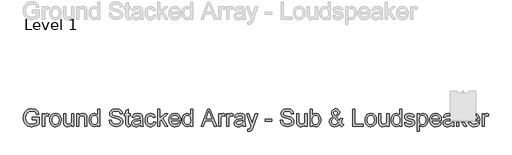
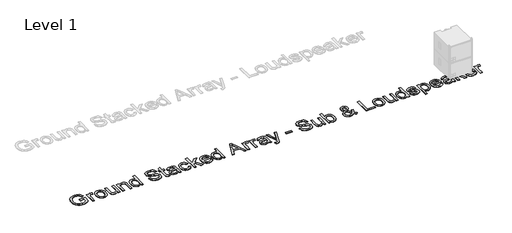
# One storey, part 14 of 31: 1 proxy.
"""IFC4 building model written with IfcOpenShell, lengths in millimetres."""

from ifc_helpers import new_model, si_unit, origin, origin_with_axes, place, context, project, spatial, polyline, outline, extrude, element, save

model = new_model("IFC4")

# Units and contexts
model_context = context("Model", 3, world=origin())
ifc_project = project(units=[si_unit("LENGTHUNIT", "METRE", prefix="MILLI")], contexts=[model_context])

# Site, building, storey
site = spatial("IfcSite", under=ifc_project)
building = spatial("IfcBuilding", under=site)
storey = spatial("IfcBuildingStorey", under=building, Name="Level 1", Elevation=0.0)

# Proxy
placement = place(None, origin())
element("IfcBuildingElementProxy", 1, Name="400mm Arial", ObjectType="400mm Arial", at=placement, inside=storey, context=model_context, shape_type="SweptSolid", body=[
    extrude(outline(polyline([(1908.6992468, -9440.554912), (1908.6992468, -9390.3267569), (2071.9407508, -9390.3267569), (2071.9407508, -9540.5207128), (2032.270809, -9568.1118625), (1991.3500684, -9587.9039138), (1949.2766309, -9599.8232904), (1906.1485983, -9603.796416), (1877.2974529, -9602.2175891), (1849.8013394, -9597.4811084), (1823.660258, -9589.5869739), (1798.8742085, -9578.5351857), (1776.2433345, -9564.4912905), (1756.5677791, -9547.6208353), (1739.8475424, -9527.9238202), (1726.0826244, -9505.400245), (1715.3312731, -9480.7705454), (1707.6517365, -9454.755157), (1703.0440145, -9427.3540797), (1701.5081071, -9398.5673136), (1707.627211, -9341.9748), (1715.2760908, -9315.1592683), (1725.9845226, -9289.3308865), (1739.5624339, -9265.6239576), (1755.8197524, -9245.1727844), (1774.7564781, -9227.9773668), (1796.372611, -9214.0377048), (1820.1991015, -9203.2648937), (1845.7669002, -9195.5700287), (1873.076007, -9190.9531096), (1902.1264218, -9189.4141366), (1943.5008836, -9192.982592), (1980.706016, -9203.687958), (2012.0372993, -9220.7576826), (2035.7902134, -9243.4192135), (2053.3627101, -9272.763934), (2066.1527408, -9309.8832273), (2019.8486603, -9322.9307754), (2009.5111762, -9296.4555345), (1996.9418747, -9276.4795422), (1980.3136086, -9261.4209058), (1957.7992305, -9249.6977329), (1930.9561075, -9242.156152), (1901.3416069, -9239.6422917), (1866.6748602, -9242.3523557), (1837.0358342, -9250.4825478), (1812.5348933, -9263.0150611), (1793.2824022, -9278.9320888), (1778.5058087, -9297.4120277), (1767.4325607, -9317.6332747), (1755.6603368, -9355.5496456), (1751.7362622, -9396.5071744), (1756.4574145, -9444.5403003), (1770.6208713, -9484.0630893), (1793.797437, -9514.7934986), (1825.5579159, -9536.4494854), (1862.7262602, -9549.288567), (1902.1264218, -9553.5682609), (1936.9157959, -9550.3431621), (1970.8467785, -9540.6678656), (2000.3141264, -9527.3382747), (2021.7125957, -9513.1502924), (2021.7125957, -9440.554912), (1908.6992468, -9440.554912)])), origin_with_axes(), (0.0, 0.0, 1.0), 5.0),
    extrude(outline(polyline([(2147.2829834, -9597.5178966), (2147.2829834, -9302.4274855), (2191.2326191, -9302.4274855), (2191.2326191, -9346.0828156), (2207.4684778, -9320.7725344), (2222.4290123, -9305.8610508), (2237.4385977, -9298.5769873), (2253.8216092, -9296.1489662), (2278.8375849, -9300.0239898), (2304.245968, -9311.6490609), (2287.4705491, -9356.6778171), (2269.8122133, -9348.9522952), (2252.1538775, -9346.3771212), (2237.1565549, -9348.8541933), (2223.7533875, -9356.2854096), (2212.9253941, -9368.1066844), (2205.6535933, -9383.7539319), (2199.5467522, -9411.8110654), (2197.5111385, -9442.4188474), (2197.5111385, -9597.5178966), (2147.2829834, -9597.5178966)])), origin_with_axes(), (0.0, 0.0, 1.0), 5.0),
    extrude(outline(polyline([(2323.0815262, -9449.9726911), (2325.7977216, -9411.7558831), (2333.9463078, -9378.8243132), (2347.5272848, -9351.1779813), (2366.5406526, -9328.8168873), (2385.682779, -9314.5246718), (2406.8114683, -9304.3159465), (2429.9267203, -9298.1907112), (2455.0285351, -9296.1489662), (2482.7392464, -9298.6352353), (2507.795076, -9306.0940428), (2530.1960238, -9318.5253885), (2549.9420899, -9335.9292726), (2566.058387, -9357.7170837), (2577.5700277, -9383.3002108), (2584.4770122, -9412.6786538), (2586.7793403, -9445.8524127), (2582.7081129, -9496.5956026), (2570.4944307, -9535.2232121), (2550.4939129, -9564.1509996), (2523.0621788, -9585.7947237), (2490.4800967, -9599.2959929), (2455.0285351, -9603.796416), (2426.9131536, -9601.3193439), (2401.6243322, -9593.8881276), (2379.1620707, -9581.5027671), (2359.5263692, -9564.1632624), (2343.5817504, -9542.1639191), (2332.1927369, -9515.7990427), (2325.3593289, -9485.0686334), (2323.0815262, -9449.9726911)]), holes=[polyline([(2373.3096813, -9449.8745892), (2374.7628152, -9474.2375743), (2379.1222168, -9495.3325411), (2386.3878862, -9513.1594894), (2396.5598234, -9527.7184194), (2408.9329211, -9539.0277251), (2422.8020724, -9547.1058005), (2438.167277, -9551.9526458), (2455.0285351, -9553.5682609), (2471.8039541, -9551.9434488), (2487.1078451, -9547.0690123), (2500.9402081, -9538.9449516), (2513.3010432, -9527.5712666), (2523.4729803, -9512.8682495), (2530.7386497, -9494.7561926), (2535.0980514, -9473.2350959), (2536.5511853, -9448.3049594), (2535.0888543, -9424.7145264), (2530.7018615, -9404.1713827), (2523.3902069, -9386.6755281), (2513.1538904, -9372.2269628), (2500.7470701, -9360.9176571), (2486.9239041, -9352.8395816), (2471.6843925, -9347.9927363), (2455.0285351, -9346.3771212), (2438.167277, -9347.986605), (2422.8020724, -9352.8150562), (2408.9329211, -9360.8624748), (2396.5598234, -9372.1288609), (2386.3878862, -9386.6448713), (2379.1222168, -9404.4411628), (2374.7628152, -9425.5177354), (2373.3096813, -9449.8745892)])]), origin_with_axes(), (0.0, 0.0, 1.0), 5.0),
    extrude(outline(polyline([(2831.6415963, -9597.5178966), (2831.6415963, -9546.7992322), (2813.4682258, -9571.7355001), (2792.3027483, -9589.54712), (2768.145164, -9600.234092), (2740.9954727, -9603.796416), (2716.53132, -9601.2948184), (2693.7594245, -9593.7900257), (2674.6540863, -9582.5083112), (2661.1896052, -9568.6759482), (2652.1274454, -9551.8760037), (2646.2290708, -9531.6915449), (2643.2860148, -9484.995057), (2643.2860148, -9302.4274855), (2693.5141699, -9302.4274855), (2693.5141699, -9461.3525075), (2696.5553277, -9512.5616812), (2703.8761794, -9529.6436685), (2716.4209554, -9542.6299029), (2733.3557899, -9550.8336714), (2753.8468171, -9553.5682609), (2775.5150666, -9550.7723578), (2795.7853645, -9542.3846483), (2812.4994698, -9529.1776846), (2823.4991415, -9511.9240191), (2829.6059826, -9488.2937322), (2831.6415963, -9455.9569049), (2831.6415963, -9302.4274855), (2881.8697514, -9302.4274855), (2881.8697514, -9597.5178966), (2831.6415963, -9597.5178966)])), origin_with_axes(), (0.0, 0.0, 1.0), 5.0),
    extrude(outline(polyline([(2950.9334646, -9597.5178966), (2950.9334646, -9302.4274855), (3001.1616197, -9302.4274855), (3001.1616197, -9343.630269), (3018.611489, -9322.857199), (3039.5685, -9308.0192919), (3064.0326527, -9299.1165476), (3092.003947, -9296.1489662), (3116.7624053, -9298.5401991), (3139.436199, -9305.713898), (3158.3453335, -9316.7748834), (3171.8098145, -9330.8279756), (3180.9455507, -9347.8363865), (3186.8684509, -9367.7633279), (3189.5172012, -9416.3237513), (3189.5172012, -9597.5178966), (3139.2890462, -9597.5178966), (3139.2890462, -9423.09278), (3137.8420436, -9397.1203111), (3133.5010361, -9378.6526349), (3125.4934713, -9365.4211459), (3113.0467972, -9355.1572382), (3097.0929813, -9348.5721505), (3078.5639915, -9346.3771212), (3049.1456946, -9351.30674), (3024.0684053, -9366.0955962), (3014.0466866, -9378.168257), (3006.8883161, -9394.6677645), (3002.5932938, -9415.5941186), (3001.1616197, -9440.9473195), (3001.1616197, -9597.5178966), (2950.9334646, -9597.5178966)])), origin_with_axes(), (0.0, 0.0, 1.0), 5.0),
    extrude(outline(polyline([(3440.6579766, -9597.5178966), (3440.6579766, -9550.1346956), (3425.6299971, -9573.6116983), (3407.4259697, -9590.3809859), (3386.0458944, -9600.4425585), (3361.4897712, -9603.796416), (3329.0180538, -9598.9403737), (3299.2931886, -9584.3722466), (3274.1300601, -9561.1098418), (3255.3435529, -9530.170966), (3243.6449055, -9492.806418), (3239.7453563, -9450.2669967), (3243.3383371, -9408.2548728), (3254.1172796, -9370.3139764), (3272.069921, -9338.6025484), (3297.1839985, -9315.2788299), (3327.5587886, -9300.9314321), (3361.2935675, -9296.1489662), (3385.8680848, -9299.5702687), (3407.597648, -9309.8341764), (3426.0162732, -9325.567263), (3440.6579766, -9345.3961026), (3440.6579766, -9195.692656), (3490.8861317, -9195.692656), (3490.8861317, -9597.5178966), (3440.6579766, -9597.5178966)]), holes=[polyline([(3289.9735114, -9450.0707929), (3291.3898571, -9474.4276467), (3295.6388941, -9495.5042193), (3302.7206225, -9513.3005109), (3312.6350423, -9527.8165213), (3337.3321869, -9547.130326), (3351.2074695, -9551.9587772), (3366.1005589, -9553.5682609), (3381.0641591, -9552.0323536), (3394.8566682, -9547.4246316), (3418.9284134, -9528.9937436), (3428.4350973, -9515.0847385), (3435.2255858, -9497.9322405), (3440.6579766, -9453.8967657), (3435.1274839, -9405.7532753), (3428.2143681, -9387.2181541), (3418.536006, -9372.3741156), (3406.8342928, -9361.0004305), (3393.8511241, -9352.8763698), (3379.5864997, -9348.0019334), (3364.0404197, -9346.3771212), (3348.8530247, -9347.937554), (3334.9777421, -9352.6188524), (3322.414572, -9360.4210164), (3311.1635143, -9371.344046), (3301.892888, -9385.6270644), (3295.2710121, -9403.5091951), (3289.9735114, -9450.0707929)])]), origin_with_axes(), (0.0, 0.0, 1.0), 5.0),
    extrude(outline(polyline([(3710.6343101, -9459.3904702), (3760.8624652, -9459.3904702), (3766.6259498, -9487.2636627), (3777.049273, -9509.6676762), (3793.3096572, -9527.4486393), (3816.5843247, -9541.4526805), (3845.0338657, -9550.5393658), (3876.8188701, -9553.5682609), (3904.8024272, -9551.2751298), (3929.3033681, -9544.3957365), (3949.1567331, -9533.5064294), (3963.1975626, -9519.1835571), (3971.5484838, -9502.7392319), (3974.3321243, -9485.4855663), (3972.2474596, -9468.6733592), (3965.9934657, -9454.1420204), (3953.2892742, -9441.7443971), (3931.8540166, -9431.3333367), (3858.7190759, -9412.154422), (3810.7104756, -9399.4624931), (3779.992329, -9387.383701), (3754.988616, -9370.4856547), (3737.2689666, -9350.0068903), (3726.7107533, -9326.3888662), (3723.1913489, -9300.0730408), (3727.5446192, -9270.6547439), (3740.60443, -9243.2230098), (3762.0274249, -9219.9728677), (3791.4702472, -9203.0993468), (3826.8114442, -9192.8354392), (3865.929563, -9189.4141366), (3908.3095689, -9192.9948547), (3945.392074, -9203.737009), (3975.8527032, -9221.4198702), (3998.3670813, -9245.8227092), (4012.6163772, -9275.4249471), (4018.28176, -9308.7060049), (3968.0536049, -9308.7060049), (3958.8320295, -9278.7358851), (3950.4688455, -9266.8778221), (3939.6040639, -9257.1044237), (3909.5603677, -9244.0078247), (3867.8916003, -9239.6422917), (3825.2418144, -9243.9587738), (3808.9385106, -9249.3543764), (3795.982933, -9256.90822), (3779.0603612, -9275.9645074), (3773.419504, -9298.6015128), (3777.417155, -9317.9030548), (3789.410108, -9333.427675), (3817.7615471, -9347.309089), (3871.4232675, -9361.4848085), (3926.8017705, -9374.9492895), (3960.3035575, -9386.6969879), (3988.9370395, -9404.9194094), (4008.9130318, -9427.409262), (4020.6484675, -9453.9212912), (4024.5602794, -9484.2102421), (4020.0598563, -9515.1736434), (4006.5585871, -9544.2976346), (3984.6082947, -9569.3626612), (3954.7608021, -9588.1491685), (3918.8677821, -9599.8846041), (3878.7809074, -9603.796416), (3829.5705592, -9599.5780358), (3789.0667515, -9586.9228951), (3756.8035005, -9565.7819432), (3732.3148224, -9536.1061289), (3716.5939985, -9499.9555915), (3710.6343101, -9459.3904702)])), origin_with_axes(), (0.0, 0.0, 1.0), 5.0),
    extrude(outline(polyline([(4200.3588221, -9555.6284001), (4206.6373415, -9598.9894246), (4169.0643271, -9603.796416), (4144.9557936, -9601.7117514), (4126.9786268, -9595.4577574), (4114.2744352, -9585.8192492), (4105.9848276, -9573.5810415), (4101.4230909, -9552.5627168), (4099.902512, -9516.5838577), (4099.902512, -9352.6556406), (4062.2313957, -9352.6556406), (4062.2313957, -9302.4274855), (4099.902512, -9302.4274855), (4099.902512, -9230.715022), (4150.130667, -9201.1863605), (4150.130667, -9302.4274855), (4200.3588221, -9302.4274855), (4200.3588221, -9352.6556406), (4150.130667, -9352.6556406), (4150.130667, -9515.1123297), (4152.7794174, -9541.0112221), (4161.3633306, -9550.1837466), (4178.4821061, -9553.5682609), (4200.3588221, -9555.6284001)])), origin_with_axes(), (0.0, 0.0, 1.0), 5.0),
    extrude(outline(polyline([(4438.9425587, -9559.8467803), (4414.9443899, -9580.4236466), (4390.2349826, -9593.8881276), (4364.250251, -9601.3193439), (4336.4261094, -9603.796416), (4314.0619498, -9602.3064939), (4294.4507737, -9597.8367277), (4277.5925813, -9590.3871173), (4263.4873725, -9579.9576627), (4252.3497451, -9567.2105516), (4244.3942969, -9552.8079715), (4239.6210281, -9536.7499224), (4238.0299384, -9519.0364043), (4240.4334341, -9498.2142834), (4247.6439212, -9479.3051488), (4258.7662202, -9463.118341), (4272.9051516, -9450.4632004), (4289.521155, -9440.8982685), (4308.0746703, -9433.982087), (4351.5337967, -9426.4282434), (4402.8901232, -9418.4819923), (4438.6482531, -9409.1623151), (4438.9425587, -9397.9787024), (4435.484468, -9375.5624262), (4425.1101957, -9360.8961973), (4401.9091045, -9350.0068903), (4369.5845399, -9346.3771212), (4339.663471, -9348.7928797), (4318.7677736, -9356.040155), (4304.5184777, -9369.4433223), (4294.5366129, -9390.3267569), (4244.3084578, -9384.0482375), (4253.0272611, -9356.5797152), (4266.038021, -9334.9973049), (4284.5547481, -9318.491666), (4309.7914529, -9306.2534583), (4340.6567523, -9298.6750892), (4376.059263, -9296.1489662), (4410.0147712, -9298.3807836), (4436.9314705, -9305.0762359), (4457.2262939, -9315.1439398), (4471.3161743, -9327.4925121), (4480.660377, -9342.7596149), (4486.7181672, -9361.5829104), (4489.1707138, -9405.5325461), (4489.1707138, -9468.0234343), (4491.7213623, -9555.2850436), (4501.7277526, -9597.5178966), (4451.4995975, -9597.5178966), (4443.4552445, -9580.0557646), (4438.9425587, -9559.8467803)]), holes=[polyline([(4438.9425587, -9459.3904702), (4405.195517, -9467.7536542), (4357.9104179, -9474.792463), (4314.6965462, -9482.9349178), (4303.4516199, -9488.5021987), (4295.1252241, -9496.1786697), (4289.9748761, -9505.3757195), (4288.2580935, -9515.5047372), (4291.9982271, -9530.4407462), (4303.218628, -9542.6789539), (4321.6740414, -9550.8459342), (4347.1192127, -9553.5682609), (4374.0972257, -9550.5638913), (4397.935979, -9541.5507824), (4417.2620465, -9528.2702424), (4430.702002, -9512.4635793), (4436.6616904, -9496.1786697), (4438.6482531, -9473.6152406), (4438.9425587, -9459.3904702)])]), origin_with_axes(), (0.0, 0.0, 1.0), 5.0),
    extrude(outline(polyline([(4746.5900086, -9490.7830671), (4796.8181636, -9497.0615865), (4791.355116, -9520.762384), (4782.8141223, -9541.7347234), (4771.1951827, -9559.9786047), (4756.498297, -9575.4940278), (4739.3427332, -9587.8763227), (4720.3477596, -9596.720819), (4699.5133759, -9602.0275167), (4676.8395823, -9603.796416), (4648.6690185, -9601.3285409), (4623.4108538, -9593.9249158), (4601.0650883, -9581.5855405), (4581.6317219, -9564.3104152), (4565.9017009, -9542.4245021), (4554.6659717, -9516.2527639), (4547.9245341, -9485.7952004), (4545.6773883, -9451.0518116), (4549.5156237, -9406.3541492), (4561.0303302, -9367.6161751), (4580.4054486, -9336.3339428), (4607.82492, -9314.0035057), (4640.6277312, -9300.612601), (4676.1528692, -9296.1489662), (4698.4373211, -9297.6818078), (4718.5941887, -9302.2803327), (4736.6234722, -9309.944541), (4752.5251714, -9320.6744325), (4766.0295063, -9334.2247527), (4776.8666968, -9350.3502468), (4785.0367427, -9369.0509149), (4790.5396442, -9390.3267569), (4740.3114892, -9396.6052763), (4731.2002784, -9374.6917721), (4717.0122961, -9358.9832109), (4698.5323573, -9349.5286437), (4676.5452767, -9346.3771212), (4659.4786178, -9347.928357), (4644.085822, -9352.5820642), (4630.3668892, -9360.338243), (4618.3218196, -9371.1968932), (4608.5146987, -9385.4094009), (4601.5096124, -9403.2271522), (4597.3065606, -9424.6501471), (4595.9055433, -9449.6783855), (4601.3869851, -9496.7550181), (4608.2387872, -9514.6923311), (4617.8313102, -9528.8956418), (4629.6372566, -9539.6899127), (4643.1293288, -9547.4001061), (4658.3075268, -9552.0262222), (4675.1718506, -9553.5682609), (4701.1811076, -9549.7177627), (4722.5060006, -9538.1662681), (4738.0183581, -9518.6194714), (4746.5900086, -9490.7830671)])), origin_with_axes(), (0.0, 0.0, 1.0), 5.0),
    extrude(outline(polyline([(4840.7677993, -9597.5178966), (4840.7677993, -9195.692656), (4890.9959544, -9195.692656), (4890.9959544, -9411.6148617), (5003.6168959, -9302.4274855), (5073.0730165, -9302.4274855), (4958.9805471, -9412.9882878), (5079.3515359, -9597.5178966), (5020.6866204, -9597.5178966), (4922.9771625, -9447.9125519), (4890.9959544, -9479.0108432), (4890.9959544, -9597.5178966), (4840.7677993, -9597.5178966)])), origin_with_axes(), (0.0, 0.0, 1.0), 5.0),
    extrude(outline(polyline([(5329.9037001, -9509.6186252), (5379.1508365, -9515.8971446), (5371.6000586, -9535.6217509), (5361.4066616, -9553.0041752), (5348.5706457, -9568.0444174), (5333.0920107, -9580.7424776), (5315.1301723, -9590.8285757), (5294.844546, -9598.0329314), (5247.3019295, -9603.796416), (5216.1361931, -9601.3101468), (5188.3672338, -9593.8513394), (5163.9950516, -9581.4199936), (5143.0196466, -9564.0161096), (5126.1522571, -9542.1240652), (5114.1041217, -9516.2282384), (5106.8752405, -9486.3286292), (5104.4656135, -9452.4252377), (5106.899766, -9417.3722149), (5114.2022236, -9386.4762587), (5126.3729863, -9359.737369), (5143.412054, -9337.1555459), (5164.3322768, -9319.2151673), (5188.1465046, -9306.4006111), (5214.8547375, -9298.7118774), (5244.4569754, -9296.1489662), (5273.1057857, -9298.705746), (5299.0138752, -9306.3760856), (5322.1812439, -9319.159985), (5342.6078917, -9337.057444), (5359.2821431, -9359.5902162), (5371.1923227, -9386.280055), (5378.3384305, -9417.1269603), (5380.7204664, -9452.1309321), (5380.4261608, -9465.6689895), (5154.6937685, -9465.6689895), (5157.603102, -9485.7124269), (5163.3880464, -9503.2665294), (5172.0486017, -9518.3312971), (5183.5847679, -9530.90673), (5197.3588829, -9540.8211498), (5212.7332846, -9547.9028782), (5248.2829481, -9553.5682609), (5275.0157064, -9550.944036), (5297.5300845, -9543.0713613), (5315.8260824, -9529.4597275), (5329.9037001, -9509.6186252)]), holes=[polyline([(5154.6937685, -9415.4408345), (5330.4923113, -9415.4408345), (5323.6987571, -9388.9042799), (5310.3814289, -9369.9215689), (5296.6839559, -9359.6208731), (5281.0980221, -9352.2632332), (5263.6236273, -9347.8486492), (5244.2607716, -9346.3771212), (5210.4033653, -9351.073748), (5182.4075455, -9365.1636285), (5162.946588, -9387.1261836), (5154.6937685, -9415.4408345)])]), origin_with_axes(), (0.0, 0.0, 1.0), 5.0),
    extrude(outline(polyline([(5613.0256836, -9597.5178966), (5613.0256836, -9550.1346956), (5597.9977041, -9573.6116983), (5579.7936767, -9590.3809859), (5558.4136014, -9600.4425585), (5533.8574782, -9603.796416), (5501.3857608, -9598.9403737), (5471.6608956, -9584.3722466), (5446.4977671, -9561.1098418), (5427.7112599, -9530.170966), (5416.0126124, -9492.806418), (5412.1130633, -9450.2669967), (5415.7060441, -9408.2548728), (5426.4849866, -9370.3139764), (5444.4376279, -9338.6025484), (5469.5517055, -9315.2788299), (5499.9264955, -9300.9314321), (5533.6612745, -9296.1489662), (5558.2357918, -9299.5702687), (5579.965355, -9309.8341764), (5598.3839802, -9325.567263), (5613.0256836, -9345.3961026), (5613.0256836, -9195.692656), (5663.2538387, -9195.692656), (5663.2538387, -9597.5178966), (5613.0256836, -9597.5178966)]), holes=[polyline([(5462.3412184, -9450.0707929), (5463.7575641, -9474.4276467), (5468.0066011, -9495.5042193), (5475.0883295, -9513.3005109), (5485.0027493, -9527.8165213), (5509.6998939, -9547.130326), (5523.5751765, -9551.9587772), (5538.4682659, -9553.5682609), (5553.4318661, -9552.0323536), (5567.2243752, -9547.4246316), (5591.2961204, -9528.9937436), (5600.8028043, -9515.0847385), (5607.5932928, -9497.9322405), (5613.0256836, -9453.8967657), (5607.4951909, -9405.7532753), (5600.5820751, -9387.2181541), (5590.903713, -9372.3741156), (5579.2019998, -9361.0004305), (5566.2188311, -9352.8763698), (5551.9542067, -9348.0019334), (5536.4081267, -9346.3771212), (5521.2207317, -9347.937554), (5507.3454491, -9352.6188524), (5494.782279, -9360.4210164), (5483.5312213, -9371.344046), (5474.260595, -9385.6270644), (5467.6387191, -9403.5091951), (5462.3412184, -9450.0707929)])]), origin_with_axes(), (0.0, 0.0, 1.0), 5.0),
    extrude(outline(polyline([(5855.1410874, -9597.5178966), (6015.5376373, -9195.692656), (6058.3100506, -9195.692656), (6218.6084986, -9597.5178966), (6165.5353894, -9597.5178966), (6119.6237164, -9471.9475089), (5954.0277677, -9471.9475089), (5908.1160947, -9597.5178966), (5855.1410874, -9597.5178966)]), holes=[polyline([(5972.4709183, -9421.7193538), (6101.2786676, -9421.7193538), (6064.9809774, -9322.9307754), (6036.825742, -9245.9208111), (6011.8097664, -9314.2978113), (5972.4709183, -9421.7193538)])]), origin_with_axes(), (0.0, 0.0, 1.0), 5.0),
    extrude(outline(polyline([(6265.9916996, -9597.5178966), (6265.9916996, -9302.4274855), (6309.9413353, -9302.4274855), (6309.9413353, -9346.0828156), (6326.177194, -9320.7725344), (6341.1377284, -9305.8610508), (6356.1473139, -9298.5769873), (6372.5303254, -9296.1489662), (6397.546301, -9300.0239898), (6422.9546842, -9311.6490609), (6406.1792652, -9356.6778171), (6388.5209294, -9348.9522952), (6370.8625937, -9346.3771212), (6355.865271, -9348.8541933), (6342.4621036, -9356.2854096), (6331.6341102, -9368.1066844), (6324.3623095, -9383.7539319), (6318.2554683, -9411.8110654), (6316.2198546, -9442.4188474), (6316.2198546, -9597.5178966), (6265.9916996, -9597.5178966)])), origin_with_axes(), (0.0, 0.0, 1.0), 5.0),
    extrude(outline(polyline([(6454.3472811, -9597.5178966), (6454.3472811, -9302.4274855), (6498.2969168, -9302.4274855), (6498.2969168, -9346.0828156), (6514.5327755, -9320.7725344), (6529.49331, -9305.8610508), (6544.5028954, -9298.5769873), (6560.8859069, -9296.1489662), (6585.9018826, -9300.0239898), (6611.3102657, -9311.6490609), (6594.5348467, -9356.6778171), (6576.876511, -9348.9522952), (6559.2181752, -9346.3771212), (6544.2208525, -9348.8541933), (6530.8176852, -9356.2854096), (6519.9896918, -9368.1066844), (6512.717891, -9383.7539319), (6506.6110499, -9411.8110654), (6504.5754362, -9442.4188474), (6504.5754362, -9597.5178966), (6454.3472811, -9597.5178966)])), origin_with_axes(), (0.0, 0.0, 1.0), 5.0),
    extrude(outline(polyline([(6831.0584442, -9559.8467803), (6807.0602753, -9580.4236466), (6782.350868, -9593.8881276), (6756.3661364, -9601.3193439), (6728.5419948, -9603.796416), (6706.1778352, -9602.3064939), (6686.5666592, -9597.8367277), (6669.7084668, -9590.3871173), (6655.6032579, -9579.9576627), (6644.4656305, -9567.2105516), (6636.5101824, -9552.8079715), (6631.7369135, -9536.7499224), (6630.1458239, -9519.0364043), (6632.5493196, -9498.2142834), (6639.7598067, -9479.3051488), (6650.8821057, -9463.118341), (6665.021037, -9450.4632004), (6681.6370405, -9440.8982685), (6700.1905557, -9433.982087), (6743.6496821, -9426.4282434), (6795.0060086, -9418.4819923), (6830.7641386, -9409.1623151), (6831.0584442, -9397.9787024), (6827.6003534, -9375.5624262), (6817.2260811, -9360.8961973), (6794.02499, -9350.0068903), (6761.7004253, -9346.3771212), (6731.7793564, -9348.7928797), (6710.8836591, -9356.040155), (6696.6343631, -9369.4433223), (6686.6524983, -9390.3267569), (6636.4243432, -9384.0482375), (6645.1431465, -9356.5797152), (6658.1539064, -9334.9973049), (6676.6706335, -9318.491666), (6701.9073384, -9306.2534583), (6732.7726378, -9298.6750892), (6768.1751484, -9296.1489662), (6802.1306566, -9298.3807836), (6829.0473559, -9305.0762359), (6849.3421793, -9315.1439398), (6863.4320597, -9327.4925121), (6872.7762624, -9342.7596149), (6878.8340526, -9361.5829104), (6881.2865992, -9405.5325461), (6881.2865992, -9468.0234343), (6883.8372477, -9555.2850436), (6893.843638, -9597.5178966), (6843.6154829, -9597.5178966), (6835.57113, -9580.0557646), (6831.0584442, -9559.8467803)]), holes=[polyline([(6831.0584442, -9459.3904702), (6797.3114025, -9467.7536542), (6750.0263034, -9474.792463), (6706.8124317, -9482.9349178), (6695.5675053, -9488.5021987), (6687.2411095, -9496.1786697), (6682.0907616, -9505.3757195), (6680.3739789, -9515.5047372), (6684.1141126, -9530.4407462), (6695.3345134, -9542.6789539), (6713.7899268, -9550.8459342), (6739.2350982, -9553.5682609), (6766.2131111, -9550.5638913), (6790.0518644, -9541.5507824), (6809.3779319, -9528.2702424), (6822.8178875, -9512.4635793), (6828.7775758, -9496.1786697), (6830.7641386, -9473.6152406), (6831.0584442, -9459.3904702)])]), origin_with_axes(), (0.0, 0.0, 1.0), 5.0),
    extrude(outline(polyline([(6950.3503125, -9710.5312455), (6944.0717931, -9662.1670259), (6969.5782781, -9666.5816098), (6982.9937082, -9665.195921), (6993.4170314, -9661.0388544), (7008.0342093, -9645.5878106), (7021.7684705, -9608.6034074), (7025.6925451, -9596.4387761), (6918.9577155, -9302.4274855), (6971.834621, -9302.4274855), (7028.5374992, -9466.3557026), (7048.2559741, -9531.8877487), (7067.9744491, -9473.9095462), (7126.1488552, -9302.4274855), (7178.6333532, -9302.4274855), (7075.9207001, -9604.5812309), (7049.2369928, -9670.113277), (7035.576308, -9691.0334998), (7020.1007387, -9705.5280504), (7002.1480974, -9713.9893363), (6981.0561963, -9716.8097649), (6950.3503125, -9710.5312455)])), origin_with_axes(), (0.0, 0.0, 1.0), 5.0),
    extrude(outline(polyline([(7352.1755531, -9478.2260283), (7352.1755531, -9427.9978732), (7509.1385377, -9427.9978732), (7509.1385377, -9478.2260283), (7352.1755531, -9478.2260283)])), origin_with_axes(), (0.0, 0.0, 1.0), 5.0),
    extrude(outline(polyline([(7710.051158, -9459.3904702), (7760.279313, -9459.3904702), (7766.0427976, -9487.2636627), (7776.4661208, -9509.6676762), (7792.726505, -9527.4486393), (7816.0011726, -9541.4526805), (7844.4507135, -9550.5393658), (7876.2357179, -9553.5682609), (7904.219275, -9551.2751298), (7928.7202159, -9544.3957365), (7948.5735809, -9533.5064294), (7962.6144104, -9519.1835571), (7970.9653317, -9502.7392319), (7973.7489721, -9485.4855663), (7971.6643075, -9468.6733592), (7965.4103136, -9454.1420204), (7952.706122, -9441.7443971), (7931.2708644, -9431.3333367), (7858.1359238, -9412.154422), (7810.1273234, -9399.4624931), (7779.4091768, -9387.383701), (7754.4054639, -9370.4856547), (7736.6858144, -9350.0068903), (7726.1276012, -9326.3888662), (7722.6081967, -9300.0730408), (7726.961467, -9270.6547439), (7740.0212778, -9243.2230098), (7761.4442727, -9219.9728677), (7790.887095, -9203.0993468), (7826.228292, -9192.8354392), (7865.3464109, -9189.4141366), (7907.7264167, -9192.9948547), (7944.8089218, -9203.737009), (7975.269551, -9221.4198702), (7997.7839291, -9245.8227092), (8012.0332251, -9275.4249471), (8017.6986078, -9308.7060049), (7967.4704527, -9308.7060049), (7958.2488774, -9278.7358851), (7949.8856934, -9266.8778221), (7939.0209118, -9257.1044237), (7908.9772155, -9244.0078247), (7867.3084482, -9239.6422917), (7824.6586622, -9243.9587738), (7808.3553584, -9249.3543764), (7795.3997808, -9256.90822), (7778.4772091, -9275.9645074), (7772.8363518, -9298.6015128), (7776.8340028, -9317.9030548), (7788.8269559, -9333.427675), (7817.178395, -9347.309089), (7870.8401153, -9361.4848085), (7926.2186183, -9374.9492895), (7959.7204054, -9386.6969879), (7988.3538873, -9404.9194094), (8008.3298797, -9427.409262), (8020.0653153, -9453.9212912), (8023.9771272, -9484.2102421), (8019.4767041, -9515.1736434), (8005.9754349, -9544.2976346), (7984.0251425, -9569.3626612), (7954.17765, -9588.1491685), (7918.28463, -9599.8846041), (7878.1977552, -9603.796416), (7828.987407, -9599.5780358), (7788.4835993, -9586.9228951), (7756.2203484, -9565.7819432), (7731.7316702, -9536.1061289), (7716.0108463, -9499.9555915), (7710.051158, -9459.3904702)])), origin_with_axes(), (0.0, 0.0, 1.0), 5.0),
    extrude(outline(polyline([(8281.3964219, -9597.5178966), (8281.3964219, -9546.7992322), (8263.2230514, -9571.7355001), (8242.0575739, -9589.54712), (8217.8999896, -9600.234092), (8190.7502983, -9603.796416), (8166.2861457, -9601.2948184), (8143.5142502, -9593.7900257), (8124.4089119, -9582.5083112), (8110.9444308, -9568.6759482), (8101.882271, -9551.8760037), (8095.9838964, -9531.6915449), (8093.0408404, -9484.995057), (8093.0408404, -9302.4274855), (8143.2689955, -9302.4274855), (8143.2689955, -9461.3525075), (8146.3101533, -9512.5616812), (8153.631005, -9529.6436685), (8166.1757811, -9542.6299029), (8183.1106156, -9550.8336714), (8203.6016427, -9553.5682609), (8225.2698922, -9550.7723578), (8245.5401901, -9542.3846483), (8262.2542955, -9529.1776846), (8273.2539671, -9511.9240191), (8279.3608082, -9488.2937322), (8281.3964219, -9455.9569049), (8281.3964219, -9302.4274855), (8331.624577, -9302.4274855), (8331.624577, -9597.5178966), (8281.3964219, -9597.5178966)])), origin_with_axes(), (0.0, 0.0, 1.0), 5.0),
    extrude(outline(polyline([(8450.9164453, -9597.5178966), (8400.6882902, -9597.5178966), (8400.6882902, -9195.692656), (8450.9164453, -9195.692656), (8450.9164453, -9344.7093895), (8467.4343469, -9323.4642043), (8486.0859641, -9308.289072), (8506.8712968, -9299.1839926), (8529.7903451, -9296.1489662), (8555.6647121, -9298.8835557), (8580.116602, -9307.0873241), (8601.7480633, -9320.2452368), (8619.1611444, -9337.8422589), (8632.8095665, -9359.7067122), (8643.1470505, -9385.6669183), (8649.6585618, -9414.6437568), (8651.8290656, -9445.5581071), (8649.5819198, -9481.2303979), (8642.8404822, -9512.6107321), (8631.6047529, -9539.6991097), (8615.874732, -9562.4955307), (8596.9931886, -9580.564668), (8576.302892, -9593.4711947), (8553.8038423, -9601.2151107), (8529.4960395, -9603.796416), (8505.8228331, -9600.4670839), (8484.8351653, -9590.4790878), (8466.533036, -9573.8324275), (8450.9164453, -9550.5271031), (8450.9164453, -9597.5178966)]), holes=[polyline([(8450.9164453, -9447.9125519), (8454.3500106, -9489.8020484), (8464.6507065, -9518.1534875), (8476.8214691, -9533.6474509), (8490.9665319, -9544.7145676), (8507.0858946, -9551.3548376), (8525.1795574, -9553.5682609), (8540.2014056, -9551.9373174), (8554.1686586, -9547.0444869), (8567.0813167, -9538.8897693), (8578.9393796, -9527.4731647), (8588.8537994, -9512.82533), (8595.9355278, -9494.9769218), (8600.1845649, -9473.9279403), (8601.6009105, -9449.6783855), (8596.1685197, -9403.7176615), (8589.3780313, -9385.9244357), (8579.8713474, -9371.5893006), (8568.4394144, -9360.5589721), (8555.8731785, -9352.6801661), (8542.1726399, -9347.9528824), (8527.3377985, -9346.3771212), (8512.3159503, -9348.0080647), (8498.3486972, -9352.9008953), (8485.4360392, -9361.0556128), (8473.5779762, -9372.4722174), (8463.6635565, -9386.9728994), (8456.581828, -9404.3798491), (8452.332791, -9424.6930666), (8450.9164453, -9447.9125519)])]), origin_with_axes(), (0.0, 0.0, 1.0), 5.0),
    extrude(outline(polyline([(9095.7400065, -9547.8783527), (9070.208996, -9572.3425054), (9042.4706936, -9589.8169002), (9012.4760482, -9600.301537), (8980.176009, -9603.796416), (8950.8680768, -9601.2089793), (8924.7484551, -9593.4466692), (8901.8171441, -9580.5094857), (8882.0741437, -9562.3974288), (8869.2411934, -9545.0272673), (8860.0748004, -9526.6638243), (8854.5749645, -9507.3071), (8852.7416859, -9486.9570943), (8858.6400606, -9451.7630501), (8876.3351845, -9420.149724), (8905.7534814, -9392.1416414), (8946.8213748, -9367.7633279), (8924.9078706, -9339.4118888), (8911.7499579, -9316.9465616), (8905.1648702, -9297.7676469), (8902.969841, -9279.2754453), (8904.6988864, -9261.7213428), (8909.8860225, -9245.3567254), (8918.5312494, -9230.1815931), (8930.634567, -9216.1959459), (8945.3559782, -9204.4789043), (8961.8554857, -9196.1095889), (8980.1330895, -9191.0879997), (9000.1887896, -9189.4141366), (9019.3370474, -9191.0144233), (9036.658158, -9195.8152833), (9052.1521214, -9203.8167167), (9065.8189375, -9215.0187235), (9076.9780247, -9228.4648104), (9084.9488013, -9243.1984843), (9089.7312672, -9259.2197452), (9091.3254225, -9276.5285931), (9086.6042703, -9304.5121502), (9072.4408134, -9330.3865172), (9048.8350521, -9354.1516941), (9015.7869862, -9375.8076808), (9088.4804684, -9466.3557026), (9100.8658289, -9440.4813356), (9110.1609807, -9410.7319449), (9160.3891358, -9421.621252), (9144.938092, -9468.1460616), (9124.8762605, -9504.3211245), (9153.4239033, -9537.6267078), (9185.5032133, -9565.144281), (9147.832097, -9603.796416), (9122.2029847, -9580.3500702), (9095.7400065, -9547.8783527)]), holes=[polyline([(9062.0910666, -9511.6787644), (8972.4259617, -9399.744536), (8938.1761479, -9421.5967265), (8917.2436624, -9441.8302362), (8906.5382963, -9461.1563037), (8902.969841, -9480.2861675), (8907.8504088, -9503.977768), (8922.4921122, -9528.5522852), (8933.2710547, -9539.4967746), (8946.0856108, -9547.314267), (8960.9357807, -9552.0047624), (8977.8215643, -9553.5682609), (9000.5444088, -9550.6497304), (9023.9784919, -9541.8941389), (9045.4014868, -9528.5032343), (9062.0910666, -9511.6787644)]), polyline([(8990.378603, -9344.1207783), (9016.6453775, -9327.4557239), (9031.6794884, -9312.9734361), (9038.7428227, -9298.8835557), (9041.0972674, -9283.3957237), (9037.994796, -9265.8477525), (9028.6873815, -9251.8559739), (9014.7201284, -9242.6957123), (8997.6381411, -9239.6422917), (8980.1882718, -9242.6711868), (8965.9021876, -9251.7578721), (8956.374044, -9265.2100904), (8953.1979961, -9281.3355845), (8957.5144781, -9299.7296842), (8970.5620262, -9320.1839232), (8990.378603, -9344.1207783)])]), origin_with_axes(), (0.0, 0.0, 1.0), 5.0),
    extrude(outline(polyline([(9398.9728724, -9597.5178966), (9398.9728724, -9195.692656), (9449.2010274, -9195.692656), (9449.2010274, -9547.2897415), (9650.1136477, -9547.2897415), (9650.1136477, -9597.5178966), (9398.9728724, -9597.5178966)])), origin_with_axes(), (0.0, 0.0, 1.0), 5.0),
    extrude(outline(polyline([(9687.784764, -9449.9726911), (9690.5009594, -9411.7558831), (9698.6495456, -9378.8243132), (9712.2305226, -9351.1779813), (9731.2438904, -9328.8168873), (9750.3860169, -9314.5246718), (9771.5147061, -9304.3159465), (9794.6299582, -9298.1907112), (9819.731773, -9296.1489662), (9847.4424843, -9298.6352353), (9872.4983138, -9306.0940428), (9894.8992616, -9318.5253885), (9914.6453277, -9335.9292726), (9930.7616248, -9357.7170837), (9942.2732656, -9383.3002108), (9949.18025, -9412.6786538), (9951.4825782, -9445.8524127), (9947.4113508, -9496.5956026), (9935.1976685, -9535.2232121), (9915.1971507, -9564.1509996), (9887.7654166, -9585.7947237), (9855.1833346, -9599.2959929), (9819.731773, -9603.796416), (9791.6163915, -9601.3193439), (9766.32757, -9593.8881276), (9743.8653085, -9581.5027671), (9724.229607, -9564.1632624), (9708.2849882, -9542.1639191), (9696.8959748, -9515.7990427), (9690.0625667, -9485.0686334), (9687.784764, -9449.9726911)]), holes=[polyline([(9738.0129191, -9449.8745892), (9739.466053, -9474.2375743), (9743.8254546, -9495.3325411), (9751.091124, -9513.1594894), (9761.2630612, -9527.7184194), (9773.636159, -9539.0277251), (9787.5053102, -9547.1058005), (9802.8705149, -9551.9526458), (9819.731773, -9553.5682609), (9836.507192, -9551.9434488), (9851.811083, -9547.0690123), (9865.643446, -9538.9449516), (9878.004281, -9527.5712666), (9888.1762182, -9512.8682495), (9895.4418876, -9494.7561926), (9899.8012892, -9473.2350959), (9901.2544231, -9448.3049594), (9899.7920922, -9424.7145264), (9895.4050994, -9404.1713827), (9888.0934447, -9386.6755281), (9877.8571282, -9372.2269628), (9865.4503079, -9360.9176571), (9851.627142, -9352.8395816), (9836.3876303, -9347.9927363), (9819.731773, -9346.3771212), (9802.8705149, -9347.986605), (9787.5053102, -9352.8150562), (9773.636159, -9360.8624748), (9761.2630612, -9372.1288609), (9751.091124, -9386.6448713), (9743.8254546, -9404.4411628), (9739.466053, -9425.5177354), (9738.0129191, -9449.8745892)])]), origin_with_axes(), (0.0, 0.0, 1.0), 5.0),
    extrude(outline(polyline([(10196.3448342, -9597.5178966), (10196.3448342, -9546.7992322), (10178.1714636, -9571.7355001), (10157.0059862, -9589.54712), (10132.8484018, -9600.234092), (10105.6987106, -9603.796416), (10081.2345579, -9601.2948184), (10058.4626624, -9593.7900257), (10039.3573241, -9582.5083112), (10025.8928431, -9568.6759482), (10016.8306833, -9551.8760037), (10010.9323086, -9531.6915449), (10007.9892526, -9484.995057), (10007.9892526, -9302.4274855), (10058.2174077, -9302.4274855), (10058.2174077, -9461.3525075), (10061.2585655, -9512.5616812), (10068.5794172, -9529.6436685), (10081.1241933, -9542.6299029), (10098.0590278, -9550.8336714), (10118.5500549, -9553.5682609), (10140.2183044, -9550.7723578), (10160.4886024, -9542.3846483), (10177.2027077, -9529.1776846), (10188.2023793, -9511.9240191), (10194.3092205, -9488.2937322), (10196.3448342, -9455.9569049), (10196.3448342, -9302.4274855), (10246.5729892, -9302.4274855), (10246.5729892, -9597.5178966), (10196.3448342, -9597.5178966)])), origin_with_axes(), (0.0, 0.0, 1.0), 5.0),
    extrude(outline(polyline([(10497.7137646, -9597.5178966), (10497.7137646, -9550.1346956), (10482.6857851, -9573.6116983), (10464.4817577, -9590.3809859), (10443.1016824, -9600.4425585), (10418.5455593, -9603.796416), (10386.0738418, -9598.9403737), (10356.3489766, -9584.3722466), (10331.1858481, -9561.1098418), (10312.3993409, -9530.170966), (10300.7006935, -9492.806418), (10296.8011443, -9450.2669967), (10300.3941251, -9408.2548728), (10311.1730676, -9370.3139764), (10329.125709, -9338.6025484), (10354.2397865, -9315.2788299), (10384.6145766, -9300.9314321), (10418.3493555, -9296.1489662), (10442.9238728, -9299.5702687), (10464.653436, -9309.8341764), (10483.0720612, -9325.567263), (10497.7137646, -9345.3961026), (10497.7137646, -9195.692656), (10547.9419197, -9195.692656), (10547.9419197, -9597.5178966), (10497.7137646, -9597.5178966)]), holes=[polyline([(10347.0292994, -9450.0707929), (10348.4456451, -9474.4276467), (10352.6946821, -9495.5042193), (10359.7764105, -9513.3005109), (10369.6908303, -9527.8165213), (10394.3879749, -9547.130326), (10408.2632575, -9551.9587772), (10423.1563469, -9553.5682609), (10438.1199471, -9552.0323536), (10451.9124562, -9547.4246316), (10475.9842014, -9528.9937436), (10485.4908853, -9515.0847385), (10492.2813738, -9497.9322405), (10497.7137646, -9453.8967657), (10492.183272, -9405.7532753), (10485.2701561, -9387.2181541), (10475.591794, -9372.3741156), (10463.8900808, -9361.0004305), (10450.9069121, -9352.8763698), (10436.6422877, -9348.0019334), (10421.0962078, -9346.3771212), (10405.9088127, -9347.937554), (10392.0335301, -9352.6188524), (10379.47036, -9360.4210164), (10368.2193023, -9371.344046), (10358.948676, -9385.6270644), (10352.3268001, -9403.5091951), (10347.0292994, -9450.0707929)])]), origin_with_axes(), (0.0, 0.0, 1.0), 5.0),
    extrude(outline(polyline([(10604.4485942, -9509.6186252), (10654.6767492, -9503.3401058), (10662.5984749, -9524.8244144), (10677.9268913, -9540.6188147), (10700.7601005, -9550.3308994), (10731.1962042, -9553.5682609), (10761.264426, -9550.6006795), (10782.405378, -9541.6979352), (10794.9133658, -9528.7975399), (10799.0826951, -9513.8370054), (10794.8888403, -9501.034712), (10782.3072761, -9491.2735764), (10730.607593, -9476.9507041), (10654.9710548, -9452.3761868), (10635.8289283, -9440.0276145), (10621.9597771, -9423.6813912), (10613.5352794, -9404.3798491), (10610.7271135, -9383.1653208), (10612.9834564, -9363.7043632), (10619.7524852, -9345.7394591), (10630.421063, -9329.981847), (10644.3760534, -9317.1427654), (10676.3082105, -9302.2803327), (10697.1916451, -9297.6818078), (10719.5220822, -9296.1489662), (10752.2145289, -9298.6137755), (10780.6395444, -9306.0082036), (10803.497279, -9317.6087492), (10819.4878831, -9332.691911), (10830.0828845, -9352.3735978), (10836.7538114, -9377.7697182), (10786.5256563, -9384.0482375), (10780.1858232, -9368.2415745), (10767.6410472, -9356.3344606), (10748.7687009, -9348.8664561), (10723.4461569, -9346.3771212), (10694.6042084, -9348.7560915), (10675.3762428, -9355.8930022), (10664.5605122, -9366.193698), (10660.9552686, -9378.0640238), (10666.9394824, -9392.6812017), (10685.6769387, -9403.7667125), (10728.9398613, -9414.4598158), (10802.6634132, -9438.1023654), (10822.1366334, -9449.4086054), (10836.9009642, -9464.8841746), (10846.2083787, -9484.5781241), (10849.3108501, -9508.5395047), (10845.6688184, -9533.3102257), (10834.7427231, -9556.6094187), (10816.9494973, -9576.6099365), (10792.7060738, -9591.4846319), (10763.422667, -9600.71847), (10730.5094912, -9603.796416), (10703.4762959, -9602.3126253), (10679.8644032, -9597.8612531), (10659.673813, -9590.4422996), (10642.9045254, -9580.0557646), (10629.2070524, -9566.7506991), (10618.2319062, -9550.576154), (10609.9790868, -9531.5321294), (10604.4485942, -9509.6186252)])), origin_with_axes(), (0.0, 0.0, 1.0), 5.0),
    extrude(outline(polyline([(10905.8175246, -9710.5312455), (10905.8175246, -9302.4274855), (10956.0456797, -9302.4274855), (10956.0456797, -9351.674622), (10972.4286912, -9327.3821476), (10990.77374, -9310.0303801), (11012.1599467, -9299.6193196), (11037.6664317, -9296.1489662), (11071.6342026, -9301.0050085), (11101.3345423, -9315.5731355), (11125.5166521, -9338.9704304), (11142.9297332, -9370.3139764), (11153.4511583, -9407.3229051), (11156.9583, -9447.7163482), (11152.9974372, -9490.6727025), (11141.1148487, -9529.0918455), (11121.6906794, -9561.0240027), (11095.1050739, -9584.5193994), (11064.1416726, -9598.9771619), (11031.584116, -9603.796416), (11008.4933895, -9600.5713172), (10987.879735, -9590.8960207), (10970.233662, -9576.2911055), (10956.0456797, -9558.2771505), (10956.0456797, -9710.5312455), (10905.8175246, -9710.5312455)]), holes=[polyline([(10956.0456797, -9452.3271358), (10961.4780705, -9497.3558921), (10968.268559, -9514.7934986), (10977.7752429, -9528.8465908), (11001.8224626, -9547.3878434), (11015.5843149, -9552.0231565), (11030.5049955, -9553.5682609), (11045.6402739, -9551.9679742), (11059.6535123, -9547.1671142), (11072.5447105, -9539.1656808), (11084.3138687, -9527.9636741), (11094.1209895, -9513.4016784), (11101.1260758, -9495.3202783), (11105.3291276, -9473.7194739), (11106.7301449, -9448.599265), (11101.2609659, -9403.8157634), (11094.4244922, -9386.2432668), (11084.8534289, -9371.8836062), (11060.8429974, -9352.7537425), (11047.2374949, -9347.9712765), (11032.5651347, -9346.3771212), (11017.9387597, -9348.0724441), (11004.1769074, -9353.1584127), (10979.2467708, -9373.502287), (10969.0962935, -9388.6007772), (10961.8459525, -9406.7710821), (10957.4957479, -9428.0132016), (10956.0456797, -9452.3271358)])]), origin_with_axes(), (0.0, 0.0, 1.0), 5.0),
    extrude(outline(polyline([(11420.0675029, -9509.6186252), (11469.3146393, -9515.8971446), (11461.7638614, -9535.6217509), (11451.5704644, -9553.0041752), (11438.7344485, -9568.0444174), (11423.2558136, -9580.7424776), (11405.2939751, -9590.8285757), (11385.0083488, -9598.0329314), (11337.4657323, -9603.796416), (11306.2999959, -9601.3101468), (11278.5310366, -9593.8513394), (11254.1588545, -9581.4199936), (11233.1834494, -9564.0161096), (11216.3160599, -9542.1240652), (11204.2679246, -9516.2282384), (11197.0390434, -9486.3286292), (11194.6294163, -9452.4252377), (11197.0635688, -9417.3722149), (11204.3660264, -9386.4762587), (11216.5367891, -9359.737369), (11233.5758568, -9337.1555459), (11254.4960796, -9319.2151673), (11278.3103075, -9306.4006111), (11305.0185403, -9298.7118774), (11334.6207782, -9296.1489662), (11363.2695886, -9298.705746), (11389.1776781, -9306.3760856), (11412.3450467, -9319.159985), (11432.7716945, -9337.057444), (11449.4459459, -9359.5902162), (11461.3561255, -9386.280055), (11468.5022333, -9417.1269603), (11470.8842692, -9452.1309321), (11470.5899636, -9465.6689895), (11244.8575714, -9465.6689895), (11247.7669048, -9485.7124269), (11253.5518492, -9503.2665294), (11262.2124045, -9518.3312971), (11273.7485707, -9530.90673), (11287.5226857, -9540.8211498), (11302.8970875, -9547.9028782), (11338.4467509, -9553.5682609), (11365.1795092, -9550.944036), (11387.6938874, -9543.0713613), (11405.9898852, -9529.4597275), (11420.0675029, -9509.6186252)]), holes=[polyline([(11244.8575714, -9415.4408345), (11420.6561141, -9415.4408345), (11413.8625599, -9388.9042799), (11400.5452317, -9369.9215689), (11386.8477588, -9359.6208731), (11371.2618249, -9352.2632332), (11353.7874301, -9347.8486492), (11334.4245744, -9346.3771212), (11300.5671682, -9351.073748), (11272.5713483, -9365.1636285), (11253.1103908, -9387.1261836), (11244.8575714, -9415.4408345)])]), origin_with_axes(), (0.0, 0.0, 1.0), 5.0),
    extrude(outline(polyline([(11709.4680058, -9559.8467803), (11685.469837, -9580.4236466), (11660.7604296, -9593.8881276), (11634.775698, -9601.3193439), (11606.9515565, -9603.796416), (11584.5873969, -9602.3064939), (11564.9762208, -9597.8367277), (11548.1180284, -9590.3871173), (11534.0128196, -9579.9576627), (11522.8751922, -9567.2105516), (11514.919744, -9552.8079715), (11510.1464751, -9536.7499224), (11508.5553855, -9519.0364043), (11510.9588812, -9498.2142834), (11518.1693683, -9479.3051488), (11529.2916673, -9463.118341), (11543.4305986, -9450.4632004), (11560.0466021, -9440.8982685), (11578.6001174, -9433.982087), (11622.0592437, -9426.4282434), (11673.4155703, -9418.4819923), (11709.1737002, -9409.1623151), (11709.4680058, -9397.9787024), (11706.009915, -9375.5624262), (11695.6356428, -9360.8961973), (11672.4345516, -9350.0068903), (11640.109987, -9346.3771212), (11610.188918, -9348.7928797), (11589.2932207, -9356.040155), (11575.0439248, -9369.4433223), (11565.06206, -9390.3267569), (11514.8339049, -9384.0482375), (11523.5527082, -9356.5797152), (11536.5634681, -9334.9973049), (11555.0801952, -9318.491666), (11580.3169, -9306.2534583), (11611.1821994, -9298.6750892), (11646.5847101, -9296.1489662), (11680.5402182, -9298.3807836), (11707.4569176, -9305.0762359), (11727.751741, -9315.1439398), (11741.8416214, -9327.4925121), (11751.1858241, -9342.7596149), (11757.2436142, -9361.5829104), (11759.6961609, -9405.5325461), (11759.6961609, -9468.0234343), (11762.2468094, -9555.2850436), (11772.2531996, -9597.5178966), (11722.0250446, -9597.5178966), (11713.9806916, -9580.0557646), (11709.4680058, -9559.8467803)]), holes=[polyline([(11709.4680058, -9459.3904702), (11675.7209641, -9467.7536542), (11628.435865, -9474.792463), (11585.2219933, -9482.9349178), (11573.977067, -9488.5021987), (11565.6506712, -9496.1786697), (11560.5003232, -9505.3757195), (11558.7835406, -9515.5047372), (11562.5236742, -9530.4407462), (11573.744075, -9542.6789539), (11592.1994885, -9550.8459342), (11617.6446598, -9553.5682609), (11644.6226728, -9550.5638913), (11668.4614261, -9541.5507824), (11687.7874935, -9528.2702424), (11701.2274491, -9512.4635793), (11707.1871374, -9496.1786697), (11709.1737002, -9473.6152406), (11709.4680058, -9459.3904702)])]), origin_with_axes(), (0.0, 0.0, 1.0), 5.0),
    extrude(outline(polyline([(11828.7598741, -9597.5178966), (11828.7598741, -9195.692656), (11878.9880292, -9195.692656), (11878.9880292, -9411.6148617), (11991.6089706, -9302.4274855), (12061.0650913, -9302.4274855), (11946.9726219, -9412.9882878), (12067.3436107, -9597.5178966), (12008.6786952, -9597.5178966), (11910.9692373, -9447.9125519), (11878.9880292, -9479.0108432), (11878.9880292, -9597.5178966), (11828.7598741, -9597.5178966)])), origin_with_axes(), (0.0, 0.0, 1.0), 5.0),
    extrude(outline(polyline([(12317.8957749, -9509.6186252), (12367.1429113, -9515.8971446), (12359.5921334, -9535.6217509), (12349.3987364, -9553.0041752), (12336.5627205, -9568.0444174), (12321.0840855, -9580.7424776), (12303.1222471, -9590.8285757), (12282.8366207, -9598.0329314), (12235.2940042, -9603.796416), (12204.1282679, -9601.3101468), (12176.3593086, -9593.8513394), (12151.9871264, -9581.4199936), (12131.0117213, -9564.0161096), (12114.1443319, -9542.1240652), (12102.0961965, -9516.2282384), (12094.8673153, -9486.3286292), (12092.4576882, -9452.4252377), (12094.8918408, -9417.3722149), (12102.1942984, -9386.4762587), (12114.3650611, -9359.737369), (12131.4041288, -9337.1555459), (12152.3243516, -9319.2151673), (12176.1385794, -9306.4006111), (12202.8468123, -9298.7118774), (12232.4490501, -9296.1489662), (12261.0978605, -9298.705746), (12287.00595, -9306.3760856), (12310.1733187, -9319.159985), (12330.5999665, -9337.057444), (12347.2742179, -9359.5902162), (12359.1843975, -9386.280055), (12366.3305052, -9417.1269603), (12368.7125412, -9452.1309321), (12368.4182356, -9465.6689895), (12142.6858433, -9465.6689895), (12145.5951768, -9485.7124269), (12151.3801211, -9503.2665294), (12160.0406764, -9518.3312971), (12171.5768427, -9530.90673), (12185.3509577, -9540.8211498), (12200.7253594, -9547.9028782), (12236.2750229, -9553.5682609), (12263.0077812, -9550.944036), (12285.5221593, -9543.0713613), (12303.8181572, -9529.4597275), (12317.8957749, -9509.6186252)]), holes=[polyline([(12142.6858433, -9415.4408345), (12318.4843861, -9415.4408345), (12311.6908319, -9388.9042799), (12298.3735037, -9369.9215689), (12284.6760307, -9359.6208731), (12269.0900969, -9352.2632332), (12251.6157021, -9347.8486492), (12232.2528464, -9346.3771212), (12198.3954401, -9351.073748), (12170.3996203, -9365.1636285), (12150.9386627, -9387.1261836), (12142.6858433, -9415.4408345)])]), origin_with_axes(), (0.0, 0.0, 1.0), 5.0),
    extrude(outline(polyline([(12418.9406962, -9597.5178966), (12418.9406962, -9302.4274855), (12462.8903319, -9302.4274855), (12462.8903319, -9346.0828156), (12479.1261906, -9320.7725344), (12494.0867251, -9305.8610508), (12509.0963105, -9298.5769873), (12525.479322, -9296.1489662), (12550.4952977, -9300.0239898), (12575.9036808, -9311.6490609), (12559.1282619, -9356.6778171), (12541.4699261, -9348.9522952), (12523.8115903, -9346.3771212), (12508.8142677, -9348.8541933), (12495.4111003, -9356.2854096), (12484.5831069, -9368.1066844), (12477.3113061, -9383.7539319), (12471.204465, -9411.8110654), (12469.1688513, -9442.4188474), (12469.1688513, -9597.5178966), (12418.9406962, -9597.5178966)])), origin_with_axes(), (0.0, 0.0, 1.0), 5.0),
])

save(model, "model.ifc")
